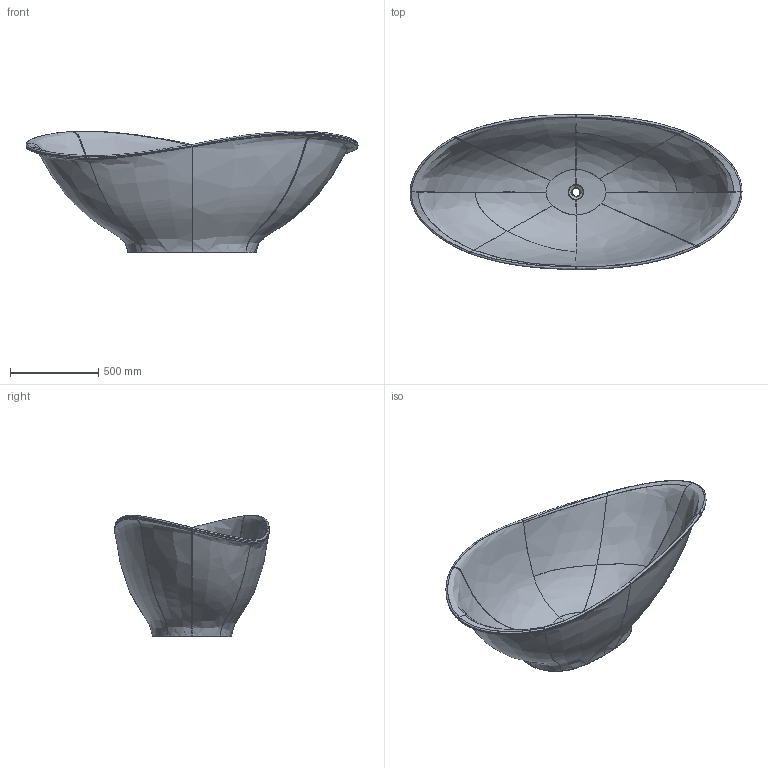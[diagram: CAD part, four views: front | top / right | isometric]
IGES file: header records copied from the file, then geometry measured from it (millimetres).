
Start section: START RECORD GO HERE.
Global section: file name: Vasca MEG.igs; native system: DASSAULT SYSTEMES CATIA V5 R19 - www.3ds.com; preprocessor: CATIA Version 5 Release 19 SP 5 ; author: Luca; organization: DESKTOP-V7SON24; date: 20201009.100312; units: millimetre
Bounding box: 1880.06 x 876.7 x 689.37 mm (x, y, z)
Surface area: 5116808.4 mm2 (no closed solid volume)
Topology: 0 solids, 0 shells, 168 faces, 826 edges, 810 vertices
Faces by surface type: bspline 160, plane 4, revolution 4
